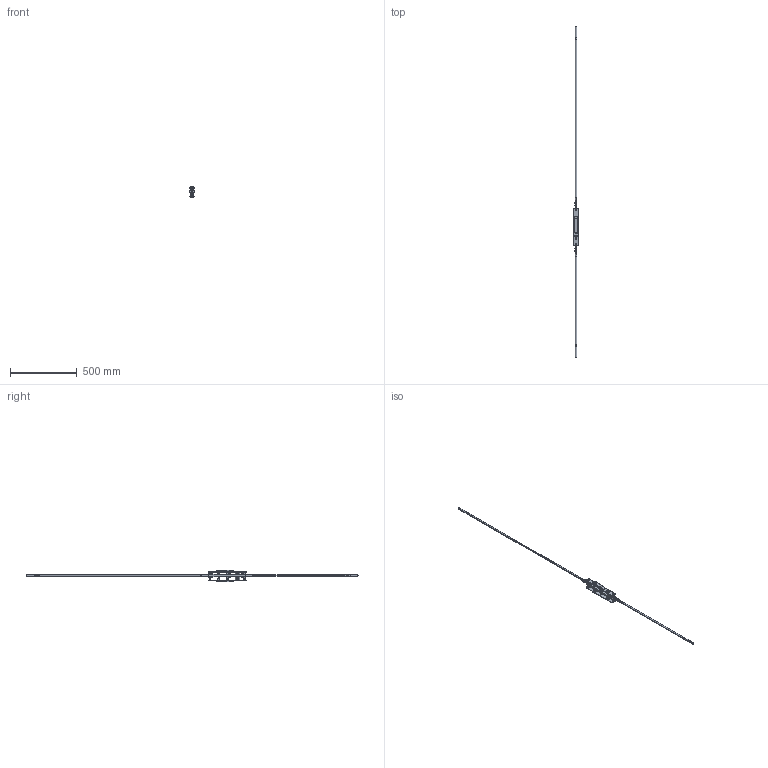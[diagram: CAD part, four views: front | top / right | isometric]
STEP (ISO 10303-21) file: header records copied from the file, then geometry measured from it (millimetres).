
FILE_DESCRIPTION (( 'STEP AP214' ), '1' );
FILE_NAME ('TPL-H-EU-605 30Oct2024.STEP', '2024-10-30T03:42:46', ( '' ), ( '' ), 'SwSTEP 2.0', 'SolidWorks 2023', '' );
FILE_SCHEMA (( 'AUTOMOTIVE_DESIGN' ));
Length unit declared in the file: millimetre
Products named in the file (22): Copy of LKC-512 Escutcheon plate keyed internal 285mm long zinc - simplified^Copy (2) of TPGen2 handle keyed internal zinc - simplified_TPL-H-EU-104 30Oct2024; Copy of TPL-H-EU-006 29Oct2024^TPL-H-EU-104 30Oct2024_TPL-050-70 Left; Copy of LKC-514 Escutcheon plate keyed external 285mm long zinc - simplified^Copy of TPGen2 handle keyed external zinc - simplified_TPL-H-EU-104 30Oct2024; Copy of LKC-584 Pivot body zinc - simplified^Copy (2) of TPGen2 handle keyed internal zinc - simplified_TPL-H-EU-104 30Oct2024; Copy of LKC-505 Swing handle zinc - simplified^Copy of TPGen2 handle keyed external zinc - simplified_TPL-H-EU-104 30Oct2024; Copy of LKC-585 Rotator body zinc^Copy of TPGen2 handle keyed external zinc - simplified_TPL-H-EU-104 30Oct2024; Copy of LKC-585 Rotator body zinc^Copy (2) of TPGen2 handle keyed internal zinc - simplified_TPL-H-EU-104 30Oct2024; Copy of LKC-584 Pivot body zinc - simplified^Copy of TPGen2 handle keyed external zinc - simplified_TPL-H-EU-104 30Oct2024; Copy of TPLGen2 lock body keyed^Copy (2) of TPLGen2 lock body keyed assembly_TPL-H-EU-104 30Oct2024_Left; Copy (2) of TPLGen2 lock body keyed assembly^TPL-H-EU-104 30Oct2024_Bolts extended - left; Copy of TPL-H-APC-517 04Oct2024^TPL-H-EU-104 30Oct2024; Copy of TPGen2 handle keyed external zinc - simplified^TPL-H-EU-104 30Oct2024_Vertical; Copy of TPLGen2 push rod - simplified^Copy (2) of TPLGen2 lock body keyed assembly_TPL-H-EU-104 30Oct2024_Female thread M10; Copy of TPL-H-APC-515 04Oct2024^TPL-H-EU-104 30Oct2024; Copy of LKC-532 Rod connector - simplified^TPL-H-EU-104 30Oct2024; Copy of LKC-540 Transmission rod aluminium system TPLGen2^TPL-H-EU-104 30Oct2024_2885mm; Copy of LKC-576 Bolt adaptor - simplified^TPL-H-EU-104 30Oct2024; Copy of LKC-505 Swing handle zinc - simplified^Copy (2) of TPGen2 handle keyed internal zinc - simplified_TPL-H-EU-104 30Oct2024; Copy (2) of TPGen2 handle keyed internal zinc - simplified^TPL-H-EU-104 30Oct2024_Vertical; Copy (2) of LKC-540 Transmission rod aluminium system TPLGen2^TPL-H-EU-104 30Oct2024_2885mm; TPL-H-EU-605 30Oct2024; Copy of LKC-586 Spindle square 8mm with M4 hole^Copy (2) of TPGen2 handle keyed internal zinc - simplified_TPL-H-EU-104 30Oct2024_56mm
Assembly tree (30 placements, depth 3):
  TPL-H-EU-605 30Oct2024
    Copy (2) of TPLGen2 lock body keyed assembly^TPL-H-EU-104 30Oct2024_Bolts extended - left
      Copy of TPLGen2 lock body keyed^Copy (2) of TPLGen2 lock body keyed assembly_TPL-H-EU-104 30Oct2024_Left
      Copy of TPLGen2 push rod - simplified^Copy (2) of TPLGen2 lock body keyed assembly_TPL-H-EU-104 30Oct2024_Female thread M10  x2
    Copy (2) of TPGen2 handle keyed internal zinc - simplified^TPL-H-EU-104 30Oct2024_Vertical
      Copy of LKC-512 Escutcheon plate keyed internal 285mm long zinc - simplified^Copy (2) of TPGen2 handle keyed internal zinc - simplified_TPL-H-EU-104 30Oct2024
      Copy of LKC-505 Swing handle zinc - simplified^Copy (2) of TPGen2 handle keyed internal zinc - simplified_TPL-H-EU-104 30Oct2024
      Copy of LKC-585 Rotator body zinc^Copy (2) of TPGen2 handle keyed internal zinc - simplified_TPL-H-EU-104 30Oct2024
      Copy of LKC-586 Spindle square 8mm with M4 hole^Copy (2) of TPGen2 handle keyed internal zinc - simplified_TPL-H-EU-104 30Oct2024_56mm
      Copy of LKC-584 Pivot body zinc - simplified^Copy (2) of TPGen2 handle keyed internal zinc - simplified_TPL-H-EU-104 30Oct2024
    Copy of TPGen2 handle keyed external zinc - simplified^TPL-H-EU-104 30Oct2024_Vertical
      Copy of LKC-514 Escutcheon plate keyed external 285mm long zinc - simplified^Copy of TPGen2 handle keyed external zinc - simplified_TPL-H-EU-104 30Oct2024
      Copy of LKC-505 Swing handle zinc - simplified^Copy of TPGen2 handle keyed external zinc - simplified_TPL-H-EU-104 30Oct2024
      Copy of LKC-585 Rotator body zinc^Copy of TPGen2 handle keyed external zinc - simplified_TPL-H-EU-104 30Oct2024
      Copy of LKC-584 Pivot body zinc - simplified^Copy of TPGen2 handle keyed external zinc - simplified_TPL-H-EU-104 30Oct2024
    Copy of TPL-H-EU-006 29Oct2024^TPL-H-EU-104 30Oct2024_TPL-050-70 Left
    Copy of LKC-532 Rod connector - simplified^TPL-H-EU-104 30Oct2024  x2
    Copy of LKC-540 Transmission rod aluminium system TPLGen2^TPL-H-EU-104 30Oct2024_2885mm
    Copy (2) of LKC-540 Transmission rod aluminium system TPLGen2^TPL-H-EU-104 30Oct2024_2885mm
    Copy of LKC-576 Bolt adaptor - simplified^TPL-H-EU-104 30Oct2024  x2
    Copy of TPL-H-APC-517 04Oct2024^TPL-H-EU-104 30Oct2024  x2
    Copy of TPL-H-APC-515 04Oct2024^TPL-H-EU-104 30Oct2024  x6
Bounding box: 35 x 2490 x 88.92 mm (x, y, z)
Volume: 413484.7 mm3; surface area: 268491.8 mm2
Topology: 27 solids, 27 shells, 2239 faces, 5416 edges, 3260 vertices
Faces by surface type: cylinder 703, plane 614, bspline 448, torus 228, cone 184, sphere 62
Entity records: 52344 total; most frequent: CARTESIAN_POINT 22924, ORIENTED_EDGE 6376, DIRECTION 5604, EDGE_CURVE 3188, AXIS2_PLACEMENT_3D 2277, VERTEX_POINT 1921, EDGE_LOOP 1489, FACE_OUTER_BOUND 1356
